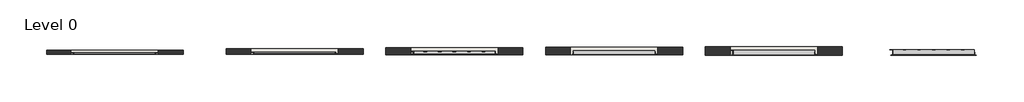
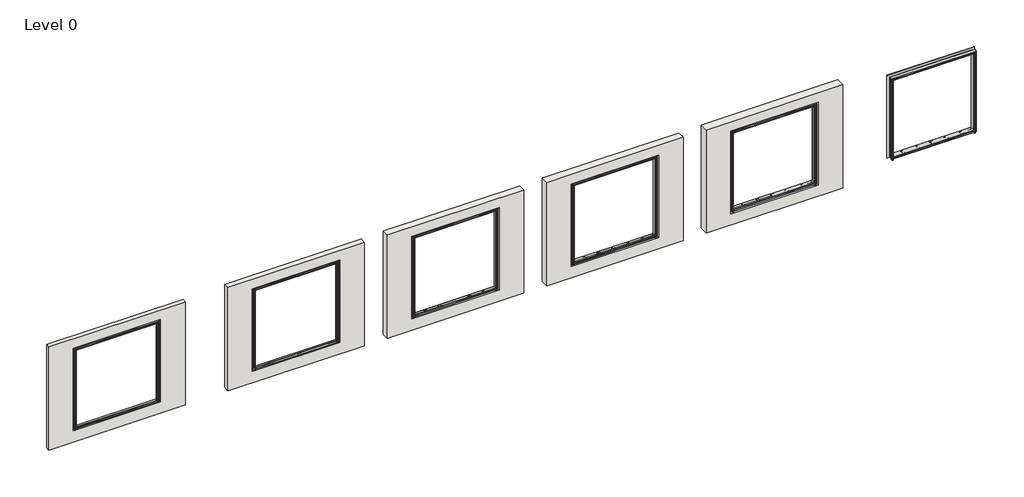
# One storey, incomplete: 6 fasteners, 5 walls.
"""IFC4 building model written with IfcOpenShell, lengths in millimetres."""

from ifc_helpers import new_model, si_unit, origin, place, context, project, spatial, faceted_brep, transform, mapped, element, save
from components import fastener_e2efdb11, fastener_f6a23df8, fastener_14a7a0fd, fastener_6eb733fe, fastener_0c583152, fastener_3b44d110, fastener_52988820, fastener_5f563760, fastener_7d932c26, fastener_20f67276

model = new_model("IFC4")

# Units and contexts
model_context = context("Model", 3, world=origin())
ifc_project = project(units=[si_unit("LENGTHUNIT", "METRE", prefix="MILLI")], contexts=[model_context])

# Site, building, storey
site = spatial("IfcSite", under=ifc_project)
building = spatial("IfcBuilding", under=site)
storey = spatial("IfcBuildingStorey", under=building, Name="Level 0", Elevation=0.0)

# Fasteners
placement = place(None, origin())
fastener_shape = fastener_e2efdb11(model_context)
element("IfcFastener", 1, ObjectType="Structural-Supporting-Components_Advanced-Architectural-Products_GreenGirt-CMH-XO-System : GreenGirt CMH XO 2.0\"", at=placement, inside=storey, context=model_context, shape_type="MappedRepresentation", body=[
    mapped(fastener_shape, transform((-9436.4025454, 7196.0836599, 1549.4), x_axis=(1.0, 0.0, 0.0), y_axis=(0.0, 0.0, 1.0), z_axis=(0.0, -1.0, 0.0))),
])
fastener_2_shape = fastener_f6a23df8(model_context)
element("IfcFastener", 2, ObjectType="Structural-Supporting-Components_Advanced-Architectural-Products_GreenGirt-CMH-XO-System : GreenGirt CMH XO 2.0\"", at=placement, inside=storey, context=model_context, shape_type="MappedRepresentation", body=[
    mapped(fastener_2_shape, transform((-4429.3679784, 7196.0836599, 1549.4), x_axis=(1.0, 0.0, 0.0), y_axis=(0.0, 0.0, 1.0), z_axis=(0.0, -1.0, 0.0))),
])
fastener_3_shape = fastener_14a7a0fd(model_context)
fastener_4_shape = fastener_6eb733fe(model_context)
element("IfcFastener", 3, ObjectType="Structural-Supporting-Components_Advanced-Architectural-Products_GreenGirt-CMH-XO-System : GreenGirt CMH XO 3.0\"", at=placement, inside=storey, context=model_context, shape_type="MappedRepresentation", body=[
    mapped(fastener_3_shape, transform((15.6320216, 7189.7336599, 1549.4), x_axis=(1.0, 0.0, 0.0), y_axis=(0.0, 0.0, 1.0), z_axis=(0.0, -1.0, 0.0))),
    mapped(fastener_4_shape, transform((15.6320216, 7189.7336599, 1549.4), x_axis=(1.0, 0.0, 0.0), y_axis=(0.0, 0.0, 1.0), z_axis=(0.0, -1.0, 0.0))),
])
fastener_5_shape = fastener_0c583152(model_context)
fastener_6_shape = fastener_3b44d110(model_context)
element("IfcFastener", 4, ObjectType="Structural-Supporting-Components_Advanced-Architectural-Products_GreenGirt-CMH-XO-System : GreenGirt CMH XO 4.0\"", at=placement, inside=storey, context=model_context, shape_type="MappedRepresentation", body=[
    mapped(fastener_5_shape, transform((4460.6320216, 7183.3836599, 1549.4), x_axis=(1.0, 0.0, 0.0), y_axis=(0.0, 0.0, 1.0), z_axis=(0.0, -1.0, 0.0))),
    mapped(fastener_6_shape, transform((4460.6320216, 7183.3836599, 1549.4), x_axis=(1.0, 0.0, 0.0), y_axis=(0.0, 0.0, 1.0), z_axis=(0.0, -1.0, 0.0))),
])
fastener_7_shape = fastener_52988820(model_context)
fastener_8_shape = fastener_5f563760(model_context)
element("IfcFastener", 5, ObjectType="Structural-Supporting-Components_Advanced-Architectural-Products_GreenGirt-CMH-XO-System : GreenGirt CMH XO 5.0\"", at=placement, inside=storey, context=model_context, shape_type="MappedRepresentation", body=[
    mapped(fastener_7_shape, transform((8905.6320216, 7177.0336599, 1549.4), x_axis=(1.0, 0.0, 0.0), y_axis=(0.0, 0.0, 1.0), z_axis=(0.0, -1.0, 0.0))),
    mapped(fastener_8_shape, transform((8905.6320216, 7177.0336599, 1549.4), x_axis=(1.0, 0.0, 0.0), y_axis=(0.0, 0.0, 1.0), z_axis=(0.0, -1.0, 0.0))),
])
fastener_9_shape = fastener_7d932c26(model_context)
fastener_10_shape = fastener_20f67276(model_context)
element("IfcFastener", 6, ObjectType="Structural-Supporting-Components_Advanced-Architectural-Products_GreenGirt-CMH-XO-System : GreenGirt CMH XO 6.0\"", at=placement, inside=storey, context=model_context, shape_type="MappedRepresentation", body=[
    mapped(fastener_9_shape, transform((13350.6320216, 7164.3336599, 1549.4), x_axis=(1.0, 0.0, 0.0), y_axis=(0.0, 0.0, 1.0), z_axis=(0.0, -1.0, 0.0))),
    mapped(fastener_10_shape, transform((13350.6320216, 7164.3336599, 1549.4), x_axis=(1.0, 0.0, 0.0), y_axis=(0.0, 0.0, 1.0), z_axis=(0.0, -1.0, 0.0))),
])

# Walls
element("IfcWall", 7, ObjectType="AAP Basic Wall-Ext", at=placement, inside=storey, context=model_context, shape_type="Brep", body=[
    faceted_brep([(-11330.6025454, 7196.0836599, 0.0), (-7520.6025454, 7196.0836599, 0.0), (-7520.6025454, 7196.0836599, 3048.0), (-11330.6025454, 7196.0836599, 3048.0), (-10655.6025454, 7196.0836599, 2768.6), (-8217.2025454, 7196.0836599, 2768.6), (-8217.2025454, 7196.0836599, 330.2), (-10655.6025454, 7196.0836599, 330.2), (-7520.6025454, 7308.5836599, 0.0), (-11330.6025454, 7308.5836599, 0.0), (-11330.6025454, 7308.5836599, 3048.0), (-7520.6025454, 7308.5836599, 3048.0), (-8217.2025454, 7308.5836599, 2768.6), (-10655.6025454, 7308.5836599, 2768.6), (-10655.6025454, 7308.5836599, 330.2), (-8217.2025454, 7308.5836599, 330.2), (-10655.6025454, 7249.5625661, 2768.6), (-8217.2025454, 7249.5625661, 2768.6), (-10655.6025454, 7249.5625661, 330.2), (-8217.2025454, 7249.5625661, 330.2)], [[[0, 1, 2, 3], [4, 5, 6, 7]], [[8, 9, 10, 11], [12, 13, 14, 15]], [[1, 0, 9, 8]], [[2, 1, 8, 11]], [[3, 2, 11, 10]], [[0, 3, 10, 9]], [[4, 16, 13, 12, 17, 5]], [[16, 4, 7, 18, 14, 13]], [[18, 7, 6, 19, 15, 14]], [[5, 17, 12, 15, 19, 6]]]),
])
element("IfcWall", 8, ObjectType="AAP Wall-Ext_2.0\" Fiberglass Batt", at=placement, inside=storey, context=model_context, shape_type="Brep", body=[
    faceted_brep([(-6334.3679784, 7196.0836599, 0.0), (-2524.3679784, 7196.0836599, 0.0), (-2524.3679784, 7196.0836599, 3048.0), (-6334.3679784, 7196.0836599, 3048.0), (-5648.5679784, 7196.0836599, 2768.6), (-3210.1679784, 7196.0836599, 2768.6), (-3210.1679784, 7196.0836599, 330.2), (-5648.5679784, 7196.0836599, 330.2), (-2524.3679784, 7359.3836599, 0.0), (-6334.3679784, 7359.3836599, 0.0), (-6334.3679784, 7359.3836599, 3048.0), (-2524.3679784, 7359.3836599, 3048.0), (-3210.1679784, 7359.3836599, 2768.6), (-5648.5679784, 7359.3836599, 2768.6), (-5648.5679784, 7359.3836599, 330.2), (-3210.1679784, 7359.3836599, 330.2), (-5648.5679784, 7208.5852224, 2768.6), (-5648.5679784, 7262.0641286, 2768.6), (-3210.1679784, 7262.0641286, 2768.6), (-3210.1679784, 7208.5852224, 2768.6), (-5648.5679784, 7208.5852224, 330.2), (-5648.5679784, 7262.0641286, 330.2), (-3210.1679784, 7208.5852224, 330.2), (-3210.1679784, 7262.0641286, 330.2)], [[[0, 1, 2, 3], [4, 5, 6, 7]], [[8, 9, 10, 11], [12, 13, 14, 15]], [[1, 0, 9, 8]], [[2, 1, 8, 11]], [[3, 2, 11, 10]], [[0, 3, 10, 9]], [[4, 16, 17, 13, 12, 18, 19, 5]], [[16, 4, 7, 20, 21, 14, 13, 17]], [[20, 7, 6, 22, 23, 15, 14, 21]], [[19, 18, 12, 15, 23, 22, 6, 5]]]),
])
element("IfcWall", 9, ObjectType="AAP Wall-Ext_3.0\" Fiberglass Batt", at=placement, inside=storey, context=model_context, shape_type="Brep", body=[
    faceted_brep([(-1889.3679784, 7189.7336599, 0.0), (1920.6320216, 7189.7336599, 0.0), (1920.6320216, 7189.7336599, 3048.0), (-1889.3679784, 7189.7336599, 3048.0), (-1203.5679784, 7189.7336599, 2768.6), (1234.8320216, 7189.7336599, 2768.6), (1234.8320216, 7189.7336599, 330.2), (-1203.5679784, 7189.7336599, 330.2), (1920.6320216, 7378.4336599, 0.0), (-1889.3679784, 7378.4336599, 0.0), (-1889.3679784, 7378.4336599, 3048.0), (1920.6320216, 7378.4336599, 3048.0), (1234.8320216, 7378.4336599, 2768.6), (-1203.5679784, 7378.4336599, 2768.6), (-1203.5679784, 7378.4336599, 330.2), (1234.8320216, 7378.4336599, 330.2), (-1203.5679784, 7202.2352224, 2768.6), (-1203.5679784, 7281.1141286, 2768.6), (1234.8320216, 7281.1141286, 2768.6), (1234.8320216, 7202.2352224, 2768.6), (-1203.5679784, 7202.2352224, 330.2), (-1203.5679784, 7281.1141286, 330.2), (1234.8320216, 7202.2352224, 330.2), (1234.8320216, 7281.1141286, 330.2)], [[[0, 1, 2, 3], [4, 5, 6, 7]], [[8, 9, 10, 11], [12, 13, 14, 15]], [[1, 0, 9, 8]], [[2, 1, 8, 11]], [[3, 2, 11, 10]], [[0, 3, 10, 9]], [[4, 16, 17, 13, 12, 18, 19, 5]], [[16, 4, 7, 20, 21, 14, 13, 17]], [[20, 7, 6, 22, 23, 15, 14, 21]], [[19, 18, 12, 15, 23, 22, 6, 5]]]),
])
element("IfcWall", 10, ObjectType="AAP Wall-Ext_4.0\" Fiberglass Batt", at=placement, inside=storey, context=model_context, shape_type="Brep", body=[
    faceted_brep([(2555.6320216, 7183.3836599, 0.0), (6365.6320216, 7183.3836599, 0.0), (6365.6320216, 7183.3836599, 3048.0), (2555.6320216, 7183.3836599, 3048.0), (3241.4320216, 7183.3836599, 2768.6), (5679.8320216, 7183.3836599, 2768.6), (5679.8320216, 7183.3836599, 330.2), (3241.4320216, 7183.3836599, 330.2), (6365.6320216, 7397.4836599, 0.0), (2555.6320216, 7397.4836599, 0.0), (2555.6320216, 7397.4836599, 3048.0), (6365.6320216, 7397.4836599, 3048.0), (5679.8320216, 7397.4836599, 2768.6), (3241.4320216, 7397.4836599, 2768.6), (3241.4320216, 7397.4836599, 330.2), (5679.8320216, 7397.4836599, 330.2), (3241.4320216, 7195.8852224, 2768.6), (3241.4320216, 7300.1641286, 2768.6), (5679.8320216, 7300.1641286, 2768.6), (5679.8320216, 7195.8852224, 2768.6), (3241.4320216, 7195.8852224, 330.2), (3241.4320216, 7300.1641286, 330.2), (5679.8320216, 7195.8852224, 330.2), (5679.8320216, 7300.1641286, 330.2)], [[[0, 1, 2, 3], [4, 5, 6, 7]], [[8, 9, 10, 11], [12, 13, 14, 15]], [[1, 0, 9, 8]], [[2, 1, 8, 11]], [[3, 2, 11, 10]], [[0, 3, 10, 9]], [[4, 16, 17, 13, 12, 18, 19, 5]], [[16, 4, 7, 20, 21, 14, 13, 17]], [[20, 7, 6, 22, 23, 15, 14, 21]], [[19, 18, 12, 15, 23, 22, 6, 5]]]),
])
element("IfcWall", 11, ObjectType="AAP Wall-Ext_5.0\" Fiberglass Batt", at=placement, inside=storey, context=model_context, shape_type="Brep", body=[
    faceted_brep([(7000.6320216, 7177.0336599, 0.0), (10810.6320216, 7177.0336599, 0.0), (10810.6320216, 7177.0336599, 3048.0), (7000.6320216, 7177.0336599, 3048.0), (7686.4320216, 7177.0336599, 2768.6), (10124.8320216, 7177.0336599, 2768.6), (10124.8320216, 7177.0336599, 330.2), (7686.4320216, 7177.0336599, 330.2), (10810.6320216, 7416.5336599, 0.0), (7000.6320216, 7416.5336599, 0.0), (7000.6320216, 7416.5336599, 3048.0), (10810.6320216, 7416.5336599, 3048.0), (10124.8320216, 7416.5336599, 2768.6), (7686.4320216, 7416.5336599, 2768.6), (7686.4320216, 7416.5336599, 330.2), (10124.8320216, 7416.5336599, 330.2), (7686.4320216, 7189.5352224, 2768.6), (7686.4320216, 7319.2141286, 2768.6), (10124.8320216, 7319.2141286, 2768.6), (10124.8320216, 7189.5352224, 2768.6), (7686.4320216, 7189.5352224, 330.2), (7686.4320216, 7319.2141286, 330.2), (10124.8320216, 7189.5352224, 330.2), (10124.8320216, 7319.2141286, 330.2)], [[[0, 1, 2, 3], [4, 5, 6, 7]], [[8, 9, 10, 11], [12, 13, 14, 15]], [[1, 0, 9, 8]], [[2, 1, 8, 11]], [[3, 2, 11, 10]], [[0, 3, 10, 9]], [[4, 16, 17, 13, 12, 18, 19, 5]], [[16, 4, 7, 20, 21, 14, 13, 17]], [[20, 7, 6, 22, 23, 15, 14, 21]], [[19, 18, 12, 15, 23, 22, 6, 5]]]),
])

save(model, "model.ifc")
